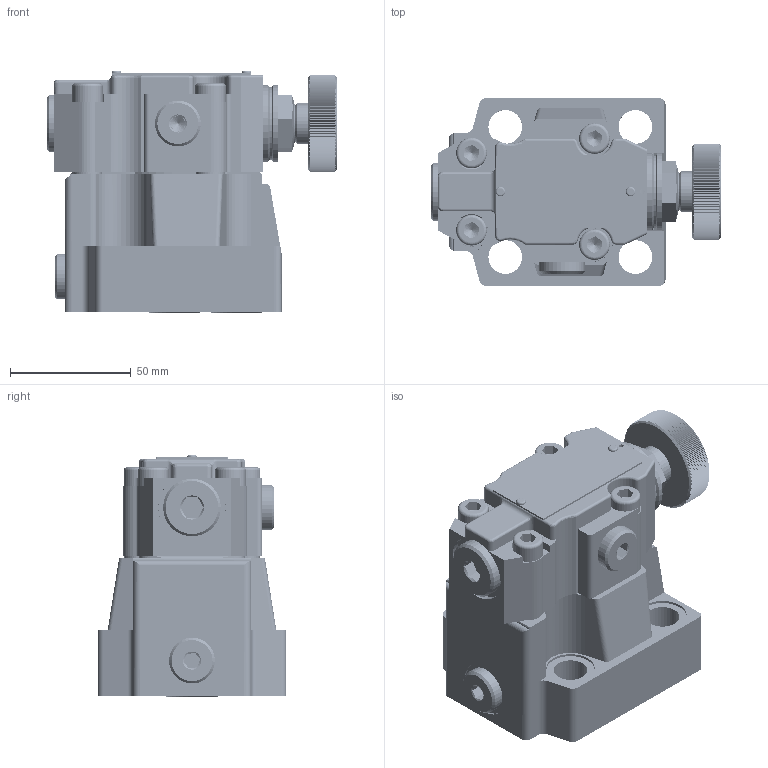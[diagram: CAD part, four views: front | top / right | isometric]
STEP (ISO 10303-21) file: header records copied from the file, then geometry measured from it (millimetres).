
FILE_DESCRIPTION(/* description */ (''),/* implementation_level */ '2;1');
FILE_NAME(/* name */ 'DB10-1-5XJ溢流阀.prt.stp',/* time_stamp */ '2022-03-30T20:08:38+08:00',/* author */ (''),/* organization */ (''),/* preprocessor_version */ 'ST-DEVELOPER v16.7',/* originating_system */ 'SIEMENS PLM Software NX 12.0',/* authorisation */ '');
FILE_SCHEMA (('AUTOMOTIVE_DESIGN { 1 0 10303 214 3 1 1 1 }'));
Products named in the file (1): DB10-1-5XJ溢流阀
Bounding box: 120.3 x 78 x 100.42 mm (x, y, z)
Volume: 458430.1 mm3; surface area: 98876.8 mm2
Topology: 26 solids, 29 shells, 1025 faces, 2719 edges, 1786 vertices
Faces by surface type: plane 650, cylinder 235, bspline 55, cone 52, torus 31, sphere 2
Full cylindrical faces by diameter (mm): 1 x1, 1.8 x4, 2 x2, 2.5 x2, 3 x1, 4 x2, 4.2 x10, 5 x1, 6 x1, 7 x12, 7.5 x2, 8 x1, 8.4 x4, 9.5 x1, 11.2 x4, 11.5 x7, 12.2 x3, 12.73 x4, 14 x4, 15.5 x2, 16 x1, 16.4 x1, 16.6 x4, 17 x1, 18 x3, 19 x5, 20 x4, 21 x2, 21.8 x2, 23 x1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
Entity records: 113344 total; most frequent: CARTESIAN_POINT 90718, ORIENTED_EDGE 4812, DIRECTION 3769, EDGE_CURVE 2406, VERTEX_POINT 1657, AXIS2_PLACEMENT_3D 1426, EDGE_LOOP 1197, B_SPLINE_CURVE_WITH_KNOTS 1004
